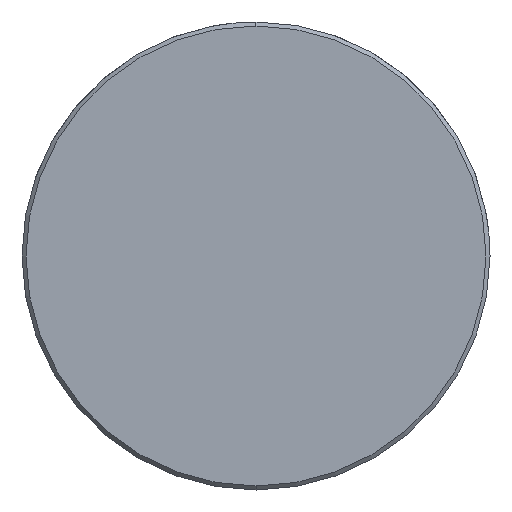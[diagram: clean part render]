
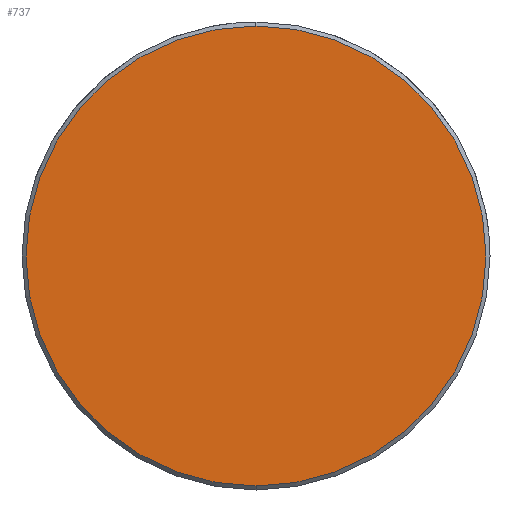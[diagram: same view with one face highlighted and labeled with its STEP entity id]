
A CAD part, left-side view. The second image highlights one B-rep face of the part: STEP entity #737.
In plain terms, the highlighted planar face has unit normal (-1, 0, 0).
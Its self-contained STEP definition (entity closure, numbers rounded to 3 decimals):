
#669=CARTESIAN_POINT('Vertex',(0.,0.,-17.2)) ;
#672=CARTESIAN_POINT('Axis2P3D Location',(0.,0.,0.)) ;
#676=CARTESIAN_POINT('Vertex',(0.,17.2,0.)) ;
#679=CARTESIAN_POINT('Axis2P3D Location',(0.,0.,0.)) ;
#683=CARTESIAN_POINT('Vertex',(0.,0.,17.2)) ;
#705=CARTESIAN_POINT('Axis2P3D Location',(0.,0.,0.)) ;
#709=CARTESIAN_POINT('Vertex',(0.,-17.2,0.)) ;
#712=CARTESIAN_POINT('Axis2P3D Location',(0.,0.,0.)) ;
#726=CARTESIAN_POINT('Axis2P3D Location',(0.,0.,0.)) ;
#673=DIRECTION('Axis2P3D Direction',(1.,0.,-0.)) ;
#680=DIRECTION('Axis2P3D Direction',(1.,0.,-0.)) ;
#706=DIRECTION('Axis2P3D Direction',(1.,0.,-0.)) ;
#713=DIRECTION('Axis2P3D Direction',(1.,0.,-0.)) ;
#727=DIRECTION('Axis2P3D Direction',(1.,0.,-0.)) ;
#728=DIRECTION('Axis2P3D XDirection',(-0.,0.,-1.)) ;
#674=AXIS2_PLACEMENT_3D('Circle Axis2P3D',#672,#673,$) ;
#681=AXIS2_PLACEMENT_3D('Circle Axis2P3D',#679,#680,$) ;
#707=AXIS2_PLACEMENT_3D('Circle Axis2P3D',#705,#706,$) ;
#714=AXIS2_PLACEMENT_3D('Circle Axis2P3D',#712,#713,$) ;
#729=AXIS2_PLACEMENT_3D('Plane Axis2P3D',#726,#727,#728) ;
#732=ORIENTED_EDGE('',*,*,#678,.F.) ;
#733=ORIENTED_EDGE('',*,*,#716,.F.) ;
#734=ORIENTED_EDGE('',*,*,#711,.F.) ;
#735=ORIENTED_EDGE('',*,*,#685,.F.) ;
#737=ADVANCED_FACE('549-30X360',(#736),#730,.F.) ;
#675=CIRCLE('generated circle',#674,17.2) ;
#682=CIRCLE('generated circle',#681,17.2) ;
#708=CIRCLE('generated circle',#707,17.2) ;
#715=CIRCLE('generated circle',#714,17.2) ;
#678=EDGE_CURVE('',#670,#677,#675,.T.) ;
#685=EDGE_CURVE('',#677,#684,#682,.T.) ;
#711=EDGE_CURVE('',#684,#710,#708,.T.) ;
#716=EDGE_CURVE('',#710,#670,#715,.T.) ;
#731=EDGE_LOOP('',(#732,#733,#734,#735)) ;
#736=FACE_OUTER_BOUND('',#731,.T.) ;
#730=PLANE('Plane',#729) ;
#670=VERTEX_POINT('',#669) ;
#677=VERTEX_POINT('',#676) ;
#684=VERTEX_POINT('',#683) ;
#710=VERTEX_POINT('',#709) ;
